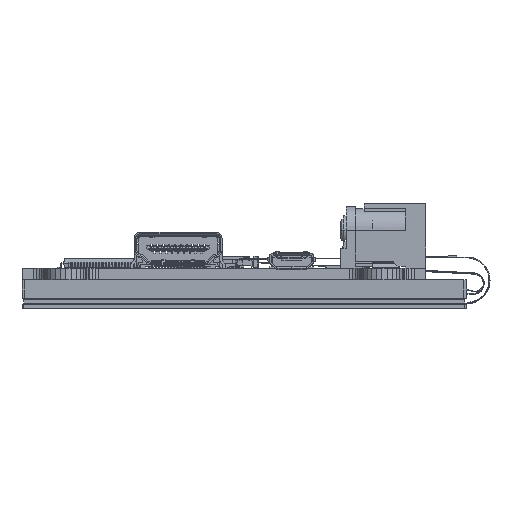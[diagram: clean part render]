
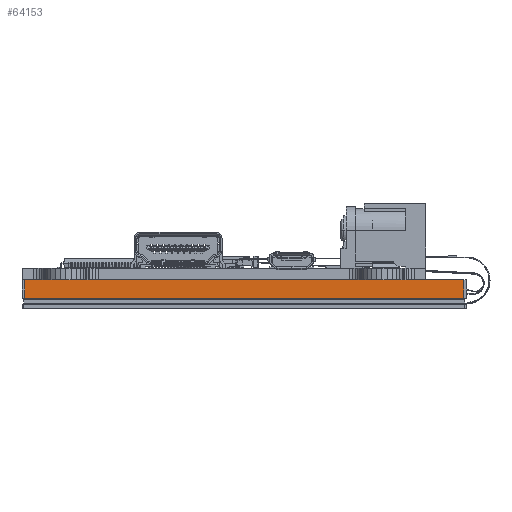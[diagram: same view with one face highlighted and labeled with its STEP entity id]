
A CAD part, left-side view. The second image highlights one B-rep face of the part: STEP entity #64153.
In plain terms, the highlighted planar face has unit normal (-1, 0, 0).
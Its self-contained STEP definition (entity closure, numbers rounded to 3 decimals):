
#1869 = EDGE_LOOP ( 'NONE', ( #165377, #33401, #62351, #116572 ) ) ;
#7965 = EDGE_CURVE ( 'NONE', #9399, #140567, #34848, .T. ) ;
#9399 = VERTEX_POINT ( 'NONE', #30069 ) ;
#12906 = CARTESIAN_POINT ( 'NONE',  ( -4.172, 30.574, 94.431 ) ) ;
#14583 = CARTESIAN_POINT ( 'NONE',  ( -4.172, 55.507, 94.431 ) ) ;
#30069 = CARTESIAN_POINT ( 'NONE',  ( -4.172, 30.574, 91.331 ) ) ;
#33401 = ORIENTED_EDGE ( 'NONE', *, *, #74929, .F. ) ;
#34848 = B_SPLINE_CURVE_WITH_KNOTS ( 'NONE', 3,
 ( #73424, #59855, #163394, #125175 ),
 .UNSPECIFIED., .F., .F.,
 ( 4, 4 ),
 ( 0., 1. ),
 .UNSPECIFIED. ) ;
#37266 = CARTESIAN_POINT ( 'NONE',  ( -4.172, 105.374, 91.331 ) ) ;
#39340 = DIRECTION ( 'NONE',  ( -1., 0., 0. ) ) ;
#39710 = CARTESIAN_POINT ( 'NONE',  ( -4.172, 105.374, 91.331 ) ) ;
#47138 = VERTEX_POINT ( 'NONE', #75207 ) ;
#50020 = CARTESIAN_POINT ( 'NONE',  ( -4.172, 30.574, 91.331 ) ) ;
#55656 = B_SPLINE_CURVE_WITH_KNOTS ( 'NONE', 3,
 ( #39710, #62678, #141586, #156843 ),
 .UNSPECIFIED., .F., .F.,
 ( 4, 4 ),
 ( 0., 1. ),
 .UNSPECIFIED. ) ;
#59098 = EDGE_CURVE ( 'NONE', #139757, #47138, #55656, .T. ) ;
#59855 = CARTESIAN_POINT ( 'NONE',  ( -4.172, 30.574, 92.364 ) ) ;
#62351 = ORIENTED_EDGE ( 'NONE', *, *, #7965, .T. ) ;
#62503 = AXIS2_PLACEMENT_3D ( 'NONE', #141199, #39340, #118190 ) ;
#62678 = CARTESIAN_POINT ( 'NONE',  ( -4.172, 105.374, 92.364 ) ) ;
#64153 = ADVANCED_FACE ( 'NONE', ( #157309 ), #143718, .T. ) ;
#66538 = CARTESIAN_POINT ( 'NONE',  ( -4.172, 30.574, 94.431 ) ) ;
#73424 = CARTESIAN_POINT ( 'NONE',  ( -4.172, 30.574, 91.331 ) ) ;
#74929 = EDGE_CURVE ( 'NONE', #9399, #139757, #86387, .T. ) ;
#75207 = CARTESIAN_POINT ( 'NONE',  ( -4.172, 105.374, 94.431 ) ) ;
#85284 = B_SPLINE_CURVE_WITH_KNOTS ( 'NONE', 3,
 ( #12906, #14583, #156268, #114705 ),
 .UNSPECIFIED., .F., .F.,
 ( 4, 4 ),
 ( 0., 1. ),
 .UNSPECIFIED. ) ;
#86387 = B_SPLINE_CURVE_WITH_KNOTS ( 'NONE', 3,
 ( #50020, #101751, #153511, #37266 ),
 .UNSPECIFIED., .F., .F.,
 ( 4, 4 ),
 ( 0., 1. ),
 .UNSPECIFIED. ) ;
#101751 = CARTESIAN_POINT ( 'NONE',  ( -4.172, 55.507, 91.331 ) ) ;
#114705 = CARTESIAN_POINT ( 'NONE',  ( -4.172, 105.374, 94.431 ) ) ;
#116572 = ORIENTED_EDGE ( 'NONE', *, *, #138029, .T. ) ;
#118190 = DIRECTION ( 'NONE',  ( 0., 0., 1. ) ) ;
#125175 = CARTESIAN_POINT ( 'NONE',  ( -4.172, 30.574, 94.431 ) ) ;
#138029 = EDGE_CURVE ( 'NONE', #140567, #47138, #85284, .T. ) ;
#139757 = VERTEX_POINT ( 'NONE', #159441 ) ;
#140567 = VERTEX_POINT ( 'NONE', #66538 ) ;
#141199 = CARTESIAN_POINT ( 'NONE',  ( -4.172, 30.574, 94.431 ) ) ;
#141586 = CARTESIAN_POINT ( 'NONE',  ( -4.172, 105.374, 93.397 ) ) ;
#143718 = PLANE ( 'NONE',  #62503 ) ;
#153511 = CARTESIAN_POINT ( 'NONE',  ( -4.172, 80.441, 91.331 ) ) ;
#156268 = CARTESIAN_POINT ( 'NONE',  ( -4.172, 80.441, 94.431 ) ) ;
#156843 = CARTESIAN_POINT ( 'NONE',  ( -4.172, 105.374, 94.431 ) ) ;
#157309 = FACE_OUTER_BOUND ( 'NONE', #1869, .T. ) ;
#159441 = CARTESIAN_POINT ( 'NONE',  ( -4.172, 105.374, 91.331 ) ) ;
#163394 = CARTESIAN_POINT ( 'NONE',  ( -4.172, 30.574, 93.397 ) ) ;
#165377 = ORIENTED_EDGE ( 'NONE', *, *, #59098, .F. ) ;
